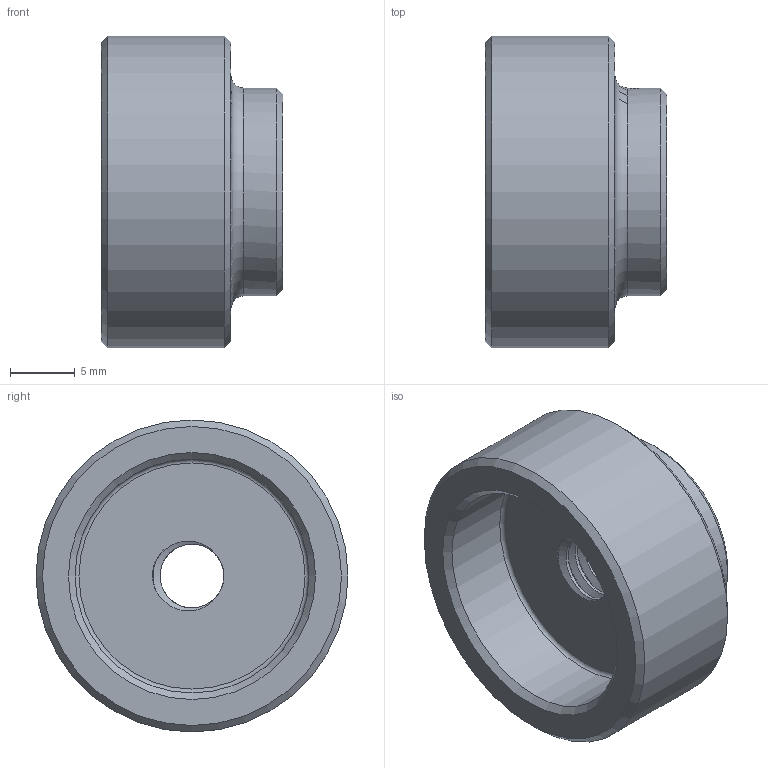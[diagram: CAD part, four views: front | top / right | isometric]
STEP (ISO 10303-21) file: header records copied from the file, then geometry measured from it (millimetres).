
FILE_DESCRIPTION(('STEP AP203'), '1');
FILE_NAME('À00080.1061', '2025-03-13T10:06:49', ('1'), (''), 'C3D Converter', 'C3D Toolkit', '');
FILE_SCHEMA(('CONFIG_CONTROL_DESIGN'));
Length unit declared in the file: millimetre
Bounding box: 14 x 24 x 24 mm (x, y, z)
Volume: 3583.7 mm3; surface area: 2278.5 mm2
Topology: 1 solids, 1 shells, 28 faces, 73 edges, 50 vertices
Faces by surface type: cylinder 10, bspline 7, cone 5, plane 4, torus 2
Full cylindrical faces by diameter (mm): 1.4 x1, 16 x1, 18 x1, 24 x1
Entity records: 7597 total; most frequent: CARTESIAN_POINT 6771, ORIENTED_EDGE 122, DIRECTION 80, EDGE_CURVE 61, VERTEX_POINT 46, EDGE_LOOP 43, B_SPLINE_CURVE_WITH_KNOTS 42, AXIS2_PLACEMENT_3D 38
